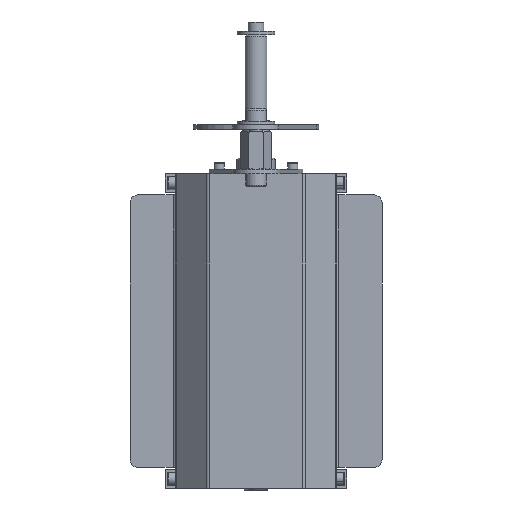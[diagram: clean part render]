
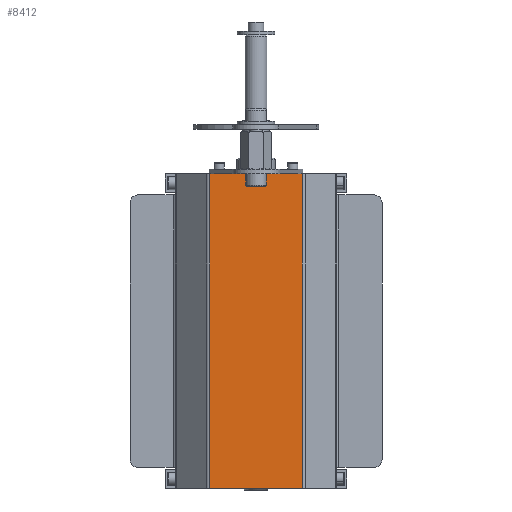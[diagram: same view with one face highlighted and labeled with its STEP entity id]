
A CAD part, front view. The second image highlights one B-rep face of the part: STEP entity #8412.
In plain terms, the highlighted planar face has unit normal (0, -1, 0).
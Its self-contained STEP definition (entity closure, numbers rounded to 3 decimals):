
#989 = EDGE_CURVE ( 'NONE', #5740, #11528, #10781, .T. ) ;
#1157 = VERTEX_POINT ( 'NONE', #4384 ) ;
#1634 = CARTESIAN_POINT ( 'NONE',  ( -29.586, -1.5, -201. ) ) ;
#1710 = ORIENTED_EDGE ( 'NONE', *, *, #5707, .F. ) ;
#1779 = VERTEX_POINT ( 'NONE', #15777 ) ;
#2021 = ORIENTED_EDGE ( 'NONE', *, *, #989, .F. ) ;
#2523 = VECTOR ( 'NONE', #7033, 1000. ) ;
#3138 = LINE ( 'NONE', #1634, #12601 ) ;
#3561 = DIRECTION ( 'NONE',  ( 0., 0., 1. ) ) ;
#3622 = CARTESIAN_POINT ( 'NONE',  ( -30.207, -1.5, -201. ) ) ;
#4384 = CARTESIAN_POINT ( 'NONE',  ( 29.586, -1.5, -201. ) ) ;
#5115 = DIRECTION ( 'NONE',  ( 0., 0., 1. ) ) ;
#5384 = DIRECTION ( 'NONE',  ( 0., -1., 0. ) ) ;
#5707 = EDGE_CURVE ( 'NONE', #1779, #5740, #3138, .T. ) ;
#5740 = VERTEX_POINT ( 'NONE', #9239 ) ;
#6536 = EDGE_CURVE ( 'NONE', #1779, #1157, #7135, .T. ) ;
#7033 = DIRECTION ( 'NONE',  ( 1., 0., 0. ) ) ;
#7135 = LINE ( 'NONE', #21793, #2523 ) ;
#7287 = LINE ( 'NONE', #8790, #23353 ) ;
#8412 = ADVANCED_FACE ( 'NONE', ( #23586 ), #16363, .T. ) ;
#8632 = CARTESIAN_POINT ( 'NONE',  ( -30.207, -1.5, 0. ) ) ;
#8790 = CARTESIAN_POINT ( 'NONE',  ( 29.586, -1.5, -201. ) ) ;
#9239 = CARTESIAN_POINT ( 'NONE',  ( -29.586, -1.5, 0. ) ) ;
#9269 = EDGE_LOOP ( 'NONE', ( #2021, #1710, #16322, #9359 ) ) ;
#9359 = ORIENTED_EDGE ( 'NONE', *, *, #10933, .T. ) ;
#10488 = DIRECTION ( 'NONE',  ( 1., 0., 0. ) ) ;
#10781 = LINE ( 'NONE', #8632, #22281 ) ;
#10933 = EDGE_CURVE ( 'NONE', #1157, #11528, #7287, .T. ) ;
#11528 = VERTEX_POINT ( 'NONE', #12096 ) ;
#12096 = CARTESIAN_POINT ( 'NONE',  ( 29.586, -1.5, 0. ) ) ;
#12601 = VECTOR ( 'NONE', #3561, 1000. ) ;
#15777 = CARTESIAN_POINT ( 'NONE',  ( -29.586, -1.5, -201. ) ) ;
#16322 = ORIENTED_EDGE ( 'NONE', *, *, #6536, .T. ) ;
#16363 = PLANE ( 'NONE',  #18302 ) ;
#18302 = AXIS2_PLACEMENT_3D ( 'NONE', #3622, #5384, #18535 ) ;
#18535 = DIRECTION ( 'NONE',  ( 0., 0., -1. ) ) ;
#21793 = CARTESIAN_POINT ( 'NONE',  ( -30.207, -1.5, -201. ) ) ;
#22281 = VECTOR ( 'NONE', #10488, 1000. ) ;
#23353 = VECTOR ( 'NONE', #5115, 1000. ) ;
#23586 = FACE_OUTER_BOUND ( 'NONE', #9269, .T. ) ;
